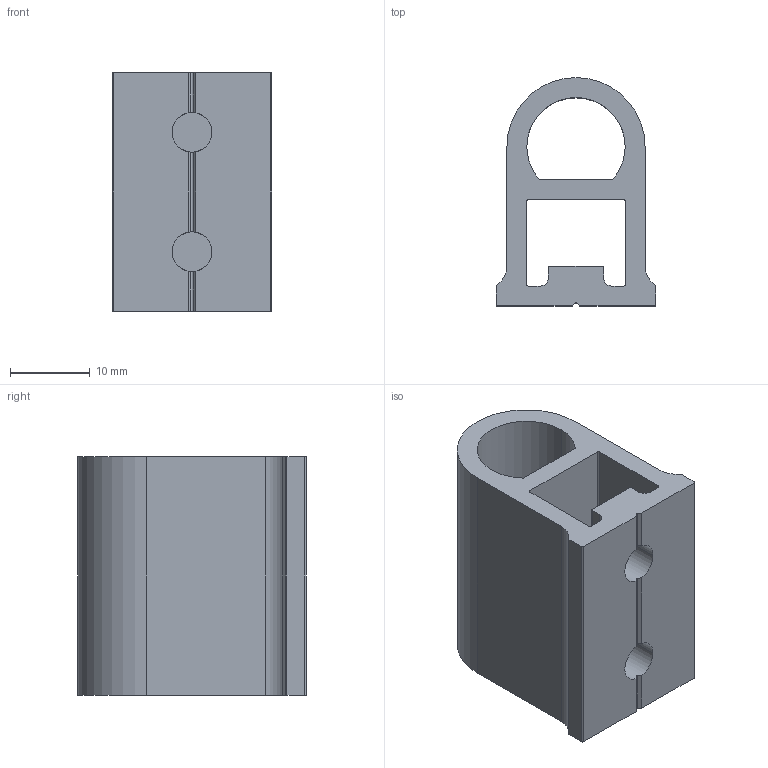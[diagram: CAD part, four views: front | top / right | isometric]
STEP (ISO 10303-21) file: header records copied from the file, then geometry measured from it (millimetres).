
FILE_DESCRIPTION (( 'STEP AP214' ), '1' );
FILE_NAME ('TPL-H-APC-028 09Oct2024.STEP', '2024-10-09T05:01:16', ( '' ), ( '' ), 'SwSTEP 2.0', 'SolidWorks 2023', '' );
FILE_SCHEMA (( 'AUTOMOTIVE_DESIGN' ));
Length unit declared in the file: millimetre
Products named in the file (1): TPL-H-APC-028 09Oct2024
Bounding box: 20 x 28.68 x 30 mm (x, y, z)
Volume: 7324.5 mm3; surface area: 5853.5 mm2
Topology: 1 solids, 1 shells, 50 faces, 150 edges, 100 vertices
Faces by surface type: cylinder 25, plane 25
Entity records: 1755 total; most frequent: CARTESIAN_POINT 345, ORIENTED_EDGE 300, DIRECTION 290, EDGE_CURVE 150, AXIS2_PLACEMENT_3D 101, VERTEX_POINT 100, LINE 88, VECTOR 88
